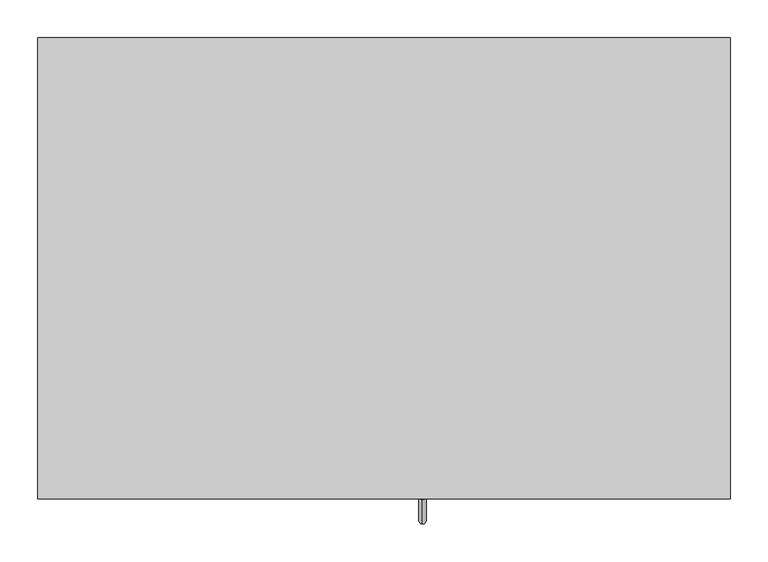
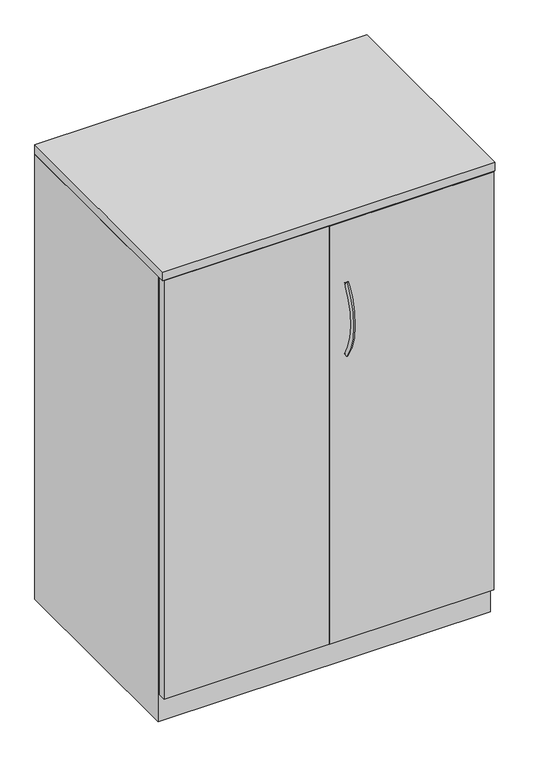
"""IFC4 building model written with IfcOpenShell, lengths in millimetres: furniture geometry, Steelcase - Universal Storage - Cabinet - Wardrobe - 52H - Proud Steel : Partition/3 Adjustable Shelf/Coat Rod - 24D x 36W."""

import ifcopenshell
import ifcopenshell.guid

model = None  # the IFC model being written
_history = None  # IfcOwnerHistory: only IFC2X3 demands one
_inside = {}  # id of a spatial element -> (the spatial element, [elements in it])
_under = {}  # id of a project, library or spatial element -> (it, [spatial elements below it])
_declared = {}  # id of a project -> (the project, [libraries it declares])
_typed = {}  # id of a type object -> (the type object, [elements of that type])
_made_of = {}  # id of a material, layer set ... -> (it, [elements and type objects made of it])


def new_model(schema):
    """Start an empty IFC model of exactly this schema.

    Asked for "IFC4X3", IfcOpenShell would pick the latest addendum, in which some entities
    have other attributes; the version numbers below select the first issue.
    IFC2X3 requires an IfcOwnerHistory on every rooted entity: one is made here for all.
    """
    global model, _history
    if schema == "IFC4X3":
        model = ifcopenshell.file(schema_version=(4, 3, 0, 0))
    else:
        model = ifcopenshell.file(schema=schema)
    _inside.clear()
    _under.clear()
    _declared.clear()
    _typed.clear()
    _made_of.clear()
    _history = None
    if model.schema == "IFC2X3":
        org = make("IfcOrganization", Name="unknown")
        user = make(
            "IfcPersonAndOrganization",
            ThePerson=make("IfcPerson", FamilyName="unknown"),
            TheOrganization=org,
        )
        app = make(
            "IfcApplication",
            ApplicationDeveloper=org,
            Version="unknown",
            ApplicationFullName="unknown",
            ApplicationIdentifier="unknown",
        )
        _history = make(
            "IfcOwnerHistory",
            OwningUser=user,
            OwningApplication=app,
            ChangeAction="ADDED",
            CreationDate=0,
        )
    return model


def make(cls, **values):
    """One entity of the class cls with the attributes given. An attribute that is None is left unset."""
    return model.create_entity(
        cls, **{name: value for name, value in values.items() if value is not None}
    )


def rooted(cls, **values):
    """An entity with a GlobalId (a new one), such as an element, a storey or a relation."""
    return make(cls, GlobalId=ifcopenshell.guid.new(), OwnerHistory=_history, **values)


def si_unit(unit_type, name, prefix=None):
    """IfcSIUnit, for example si_unit("LENGTHUNIT", "METRE", prefix="MILLI")."""
    return make("IfcSIUnit", UnitType=unit_type, Prefix=prefix, Name=name)


def assignment(units):
    """IfcUnitAssignment: the units of a project."""
    return None if units is None else make("IfcUnitAssignment", Units=units)


def point(xyz):
    """IfcCartesianPoint."""
    return None if xyz is None else make("IfcCartesianPoint", Coordinates=xyz)


def direction(xyz):
    """IfcDirection."""
    return None if xyz is None else make("IfcDirection", DirectionRatios=xyz)


def frame(location, z_axis=None, x_axis=None):
    """IfcAxis2Placement3D, a coordinate frame: its origin and axes. An axis left out is left unset."""
    return make(
        "IfcAxis2Placement3D",
        Location=point(location),
        Axis=direction(z_axis),
        RefDirection=direction(x_axis),
    )


def origin():
    """The frame at (0, 0, 0) with its axes left unset."""
    return frame((0.0, 0.0, 0.0))


def place(relative_to, where):
    """IfcLocalPlacement: puts the frame where relative to a parent placement (None: the world)."""
    return make(
        "IfcLocalPlacement", PlacementRelTo=relative_to, RelativePlacement=where
    )


def context(
    kind, dimensions, precision=None, world=None, true_north=None, identifier=None
):
    """IfcGeometricRepresentationContext, for example the 3D "Model" context."""
    return make(
        "IfcGeometricRepresentationContext",
        ContextIdentifier=identifier,
        ContextType=kind,
        CoordinateSpaceDimension=dimensions,
        Precision=precision,
        WorldCoordinateSystem=world,
        TrueNorth=true_north,
    )


def project(units=None, contexts=None):
    """IfcProject with its units and contexts."""
    return rooted(
        "IfcProject",
        Name="project",
        RepresentationContexts=contexts,
        UnitsInContext=assignment(units),
    )


def spatial(cls, under=None, at=None, **own):
    """A site, building, storey or space (cls), placed at a placement, below another one or the project."""
    s = rooted(cls, ObjectPlacement=at, **own)
    if under is not None:
        _under.setdefault(under.id(), (under, []))[1].append(s)
    return s


def polyline(points):
    """IfcPolyline through the points."""
    return make("IfcPolyline", Points=[point(p) for p in points])


def circle_curve(where, radius):
    """IfcCircle in the frame where."""
    return make("IfcCircle", Position=where, Radius=radius)


def ellipse_curve(where, semi_axis1, semi_axis2):
    """IfcEllipse in the frame where."""
    return make(
        "IfcEllipse", Position=where, SemiAxis1=semi_axis1, SemiAxis2=semi_axis2
    )


def trimmed(basis, trim1, trim2, sense, master):
    """IfcTrimmedCurve: the piece of a basis curve between two trims."""
    return make(
        "IfcTrimmedCurve",
        BasisCurve=basis,
        Trim1=trim1,
        Trim2=trim2,
        SenseAgreement=sense,
        MasterRepresentation=master,
    )


def outline(outer, holes=None, kind="AREA"):
    """IfcArbitraryClosedProfileDef: a profile drawn as a closed curve; with holes, ...WithVoids."""
    if holes is None:
        return make("IfcArbitraryClosedProfileDef", ProfileType=kind, OuterCurve=outer)
    return make(
        "IfcArbitraryProfileDefWithVoids",
        ProfileType=kind,
        OuterCurve=outer,
        InnerCurves=holes,
    )


def extrude(swept, where, along, depth):
    """IfcExtrudedAreaSolid: the profile swept, set in the frame where, extruded along a direction by depth."""
    return make(
        "IfcExtrudedAreaSolid",
        SweptArea=swept,
        Position=where,
        ExtrudedDirection=direction(along),
        Depth=depth,
    )


def faces_of(points, faces, orient=None, outer=None):
    """IfcFace entities. A face is a list of loops; a loop is a list of indices into points, from 0.

    orient and outer hold one flag for each loop. By default every Orientation is true, the
    first loop of a face is its IfcFaceOuterBound and the others are IfcFaceBound.
    """
    made = []
    for i, loops in enumerate(faces):
        bounds = []
        for j, loop in enumerate(loops):
            is_outer = j == 0 if outer is None else outer[i][j]
            bounds.append(
                make(
                    "IfcFaceOuterBound" if is_outer else "IfcFaceBound",
                    Bound=make("IfcPolyLoop", Polygon=[points[k] for k in loop]),
                    Orientation=True if orient is None else orient[i][j],
                )
            )
        made.append(make("IfcFace", Bounds=bounds))
    return made


def faceted_brep(points, faces, orient=None, outer=None, voids=None):
    """IfcFacetedBrep: a solid bounded by flat faces; with voids (closed shells), ...WithVoids."""
    shared = [point(p) for p in points]
    hull = make("IfcClosedShell", CfsFaces=faces_of(shared, faces, orient, outer))
    if voids is None:
        return make("IfcFacetedBrep", Outer=hull)
    return make(
        "IfcFacetedBrepWithVoids",
        Outer=hull,
        Voids=[
            make(cls, CfsFaces=faces_of(shared, fs, o, b)) for cls, fs, o, b in voids
        ],
    )


def shape(context_of_items, identifier, shape_type, items):
    """IfcShapeRepresentation: the items that make up one representation, for example the "Body"."""
    return make(
        "IfcShapeRepresentation",
        ContextOfItems=context_of_items,
        RepresentationIdentifier=identifier,
        RepresentationType=shape_type,
        Items=items,
    )


def source(mapping_origin, context_of_items, identifier, shape_type, items):
    """IfcRepresentationMap: a shape defined once, which mapped items show again and again."""
    return make(
        "IfcRepresentationMap",
        MappingOrigin=mapping_origin,
        MappedRepresentation=shape(context_of_items, identifier, shape_type, items),
    )


def transform(
    local_origin,
    x_axis=None,
    y_axis=None,
    z_axis=None,
    scale=None,
    scale2=None,
    scale3=None,
    uniform=True,
):
    """IfcCartesianTransformationOperator3D, or its non-uniform kind. x_axis, y_axis, z_axis: its Axis1, 2, 3."""
    if uniform:
        return make(
            "IfcCartesianTransformationOperator3D",
            Axis1=direction(x_axis),
            Axis2=direction(y_axis),
            LocalOrigin=point(local_origin),
            Scale=scale,
            Axis3=direction(z_axis),
        )
    return make(
        "IfcCartesianTransformationOperator3DnonUniform",
        Axis1=direction(x_axis),
        Axis2=direction(y_axis),
        LocalOrigin=point(local_origin),
        Scale=scale,
        Axis3=direction(z_axis),
        Scale2=scale2,
        Scale3=scale3,
    )


def mapped(mapping_source, mapping_target):
    """IfcMappedItem: shows the shape of a source again, moved by a transform."""
    return make(
        "IfcMappedItem", MappingSource=mapping_source, MappingTarget=mapping_target
    )


def made_of(thing, what):
    """Note that an element or type object is made of a material, layer set ...; save() writes the relation."""
    if what is not None:
        _made_of.setdefault(what.id(), (what, []))[1].append(thing)
    return thing


def element(
    cls,
    number,
    at=None,
    inside=None,
    cuts=None,
    type_object=None,
    material=None,
    context=None,
    identifier="Body",
    shape_type=None,
    held_by="IfcProductDefinitionShape",
    body=None,
    shapes=None,
    **own,
):
    """One element of the class cls, such as IfcWall. Its Tag is "e" and its number.

    at: its placement. inside: the storey or other place that contains it. cuts: it is an
    opening in that element (IfcRelVoidsElement). A single representation is given by context,
    identifier, shape_type and body (its items); several are given by shapes. held_by: the class
    of the entity that holds the representations. save() writes the other relations.
    """
    e = rooted(cls, Tag="e%d" % number, ObjectPlacement=at, **own)
    if body is not None:
        shapes = [shape(context, identifier, shape_type, body)]
    if shapes is not None:
        e.Representation = make(held_by, Representations=shapes)
    if inside is not None:
        _inside.setdefault(inside.id(), (inside, []))[1].append(e)
    if cuts is not None:
        rooted(
            "IfcRelVoidsElement", RelatingBuildingElement=cuts, RelatedOpeningElement=e
        )
    if type_object is not None:
        _typed.setdefault(type_object.id(), (type_object, []))[1].append(e)
    return made_of(e, material)


def aggregate(whole, parts):
    """IfcRelAggregates: a whole, such as a stair, and the parts it consists of."""
    return rooted("IfcRelAggregates", RelatingObject=whole, RelatedObjects=parts)


def save(model, path):
    """Write the relations noted so far, then the file.

    IfcRelAggregates (storeys below a building ...), IfcRelContainedInSpatialStructure (elements
    in a storey), IfcRelDefinesByType, IfcRelAssociatesMaterial and IfcRelDeclares: one each for
    every whole, place, type object, material and project.
    """
    for whole, parts in _under.values():
        aggregate(whole, parts)
    for where, things in _inside.values():
        rooted(
            "IfcRelContainedInSpatialStructure",
            RelatedElements=things,
            RelatingStructure=where,
        )
    for kind, things in _typed.values():
        rooted("IfcRelDefinesByType", RelatedObjects=things, RelatingType=kind)
    for what, things in _made_of.values():
        rooted("IfcRelAssociatesMaterial", RelatedObjects=things, RelatingMaterial=what)
    for by, libraries in _declared.values():
        rooted("IfcRelDeclares", RelatingContext=by, RelatedDefinitions=libraries)
    model.write(path)


def plane_surface(at):
    """IfcPlane: the flat surface through the origin of the frame at, square to its z axis."""
    return make("IfcPlane", Position=at)


def revolved_surface(curve, axis_point, axis_direction):
    """IfcSurfaceOfRevolution: the curve turned about the line through axis_point along axis_direction."""
    return make(
        "IfcSurfaceOfRevolution",
        SweptCurve=make("IfcArbitraryOpenProfileDef", ProfileType="CURVE", Curve=curve),
        AxisPosition=make("IfcAxis1Placement", Location=point(axis_point), Axis=direction(axis_direction)),
    )


def advanced_brep(points, edges, surfaces, faces):
    """IfcAdvancedBrep: a solid bounded by faces that lie on surfaces and meet in shared edges.

    An edge is (start, end): straight between two places in points (the first is 0);
    or (start, end, curve); or (start, end, curve, False) where it runs against its curve.
    A face is (place in surfaces, loops), or (place, loops, False) where it looks against
    its surface's normal. A loop lists edges by number (the first is 1), with a minus sign
    where the edge is run from its end to its start. The first loop is the outer one.
    """
    corners = [point(p) for p in points]
    vertices = [make("IfcVertexPoint", VertexGeometry=c) for c in corners]
    made = []
    for start, end, *more in edges:
        made.append(
            make(
                "IfcEdgeCurve",
                EdgeStart=vertices[start],
                EdgeEnd=vertices[end],
                EdgeGeometry=more[0] if more else make("IfcPolyline", Points=[corners[start], corners[end]]),
                SameSense=more[1] if len(more) > 1 else True,
            )
        )
    hull = []
    for where, loops, *sense in faces:
        bounds = []
        for j, loop in enumerate(loops):
            ring = [make("IfcOrientedEdge", EdgeElement=made[abs(k) - 1], Orientation=k > 0) for k in loop]
            bounds.append(
                make(
                    "IfcFaceOuterBound" if j == 0 else "IfcFaceBound",
                    Bound=make("IfcEdgeLoop", EdgeList=ring),
                    Orientation=True,
                )
            )
        hull.append(make("IfcAdvancedFace", Bounds=bounds, FaceSurface=surfaces[where], SameSense=sense[0] if sense else True))
    return make("IfcAdvancedBrep", Outer=make("IfcClosedShell", CfsFaces=hull))


def furniture_5d30c698(model_context):
    return source(origin(), model_context, "Body", "SolidModel", [
        extrude(outline(polyline([(914.4, 130.048), (914.4, -479.552), (0.0, -479.552), (0.0, 130.048), (914.4, 130.048)])), frame((0.0, 0.0, 1295.3999516), z_axis=(0.0, 0.0, 1.0), x_axis=(1.0, 0.0, 0.0)), (0.0, 0.0, 1.0), 25.4),
        advanced_brep(
        [(507.9682496, -480.0678374, 1114.4756859), (507.9682496, -471.5857696, 1108.8828219), (507.9682496, -477.4964738, 894.418042), (507.9682496, -469.1474089, 900.2075769)],
        [
            (0, 1, circle_curve(frame((507.9682496, -475.8268035, 1111.6792539), z_axis=(0.0, 0.5504787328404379, 0.8348491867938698), x_axis=(0.0, 0.8348491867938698, -0.5504787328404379)), 5.08)),
            (1, 0, circle_curve(frame((507.9682496, -475.8268035, 1111.6792539), z_axis=(0.0, 0.5504787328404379, 0.8348491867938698), x_axis=(0.0, 0.8348491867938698, -0.5504787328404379)), 5.08)),
            (2, 3, circle_curve(frame((507.9682496, -473.3219413, 897.3128094), z_axis=(0.0, 0.5698361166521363, -0.8217583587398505), x_axis=(0.0, 0.8217583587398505, 0.5698361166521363)), 5.08)),
            (3, 2, circle_curve(frame((507.9682496, -473.3219413, 897.3128094), z_axis=(0.0, 0.5698361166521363, -0.8217583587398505), x_axis=(0.0, 0.8217583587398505, 0.5698361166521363)), 5.08)),
            (3, 1, circle_curve(frame((507.9682496, -316.0827352, 1006.3479992), z_axis=(-1.0, 0.0, 0.0), x_axis=(0.0, -0.83484918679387, 0.5504787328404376)), 186.2648211)),
            (0, 2, circle_curve(frame((507.9682496, -316.0827352, 1006.3479992), z_axis=(1.0, 0.0, 0.0), x_axis=(0.0, -0.83484918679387, 0.5504787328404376)), 196.4248211)),
        ],
        [
            plane_surface(frame((508.7619996, -475.1785718, 1111.2518261), z_axis=(0.0, 0.5504787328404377, 0.83484918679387), x_axis=(1.0, 0.0, 0.0))),
            plane_surface(frame((508.7619996, -472.6838742, 897.7552676), z_axis=(0.0, 0.5698361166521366, -0.8217583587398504), x_axis=(1.0, 0.0, 0.0))),
            revolved_surface(trimmed(ellipse_curve(frame((507.9682496, -475.8268035, 1111.6792539), z_axis=(0.0, 0.5504787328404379, 0.8348491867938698), x_axis=(0.0, 0.8348491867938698, -0.5504787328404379)), 5.08, 5.08), [point((507.9682496, -480.0678374, 1114.4756859))], [point((507.9682496, -471.5857696, 1108.8828219))], True, "CARTESIAN"), (508.7619996, -316.0827352, 1006.3479992), (1.0, 0.0, 0.0)),
            revolved_surface(trimmed(ellipse_curve(frame((507.9682496, -475.8268035, 1111.6792539), z_axis=(0.0, 0.5504787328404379, 0.8348491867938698), x_axis=(0.0, 0.8348491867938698, -0.5504787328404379)), 5.08, 5.08), [point((507.9682496, -471.5857696, 1108.8828219))], [point((507.9682496, -480.0678374, 1114.4756859))], True, "CARTESIAN"), (508.7619996, -316.0827352, 1006.3479992), (1.0, 0.0, 0.0)),
        ],
        [
            (0, [[1, 2]]),
            (1, [[3, 4]]),
            (2, [[5, -1, 6, -4]]),
            (3, [[-6, -2, -5, -3]]),
        ],
    ),
        extrude(outline(polyline([(457.2, -479.552), (3.1725353, -479.552), (3.1725353, -457.3261219), (457.2, -457.3261219), (457.2, -479.552)])), frame((0.0, 0.0, 77.724), z_axis=(0.0, 0.0, 1.0), x_axis=(1.0, 0.0, 0.0)), (0.0, 0.0, 1.0), 1216.152),
        extrude(outline(polyline([(911.2225413, -479.552), (458.7239992, -479.552), (458.7239992, -457.3261219), (911.2225413, -457.3261219), (911.2225413, -479.552)])), frame((0.0, 0.0, 77.724), z_axis=(0.0, 0.0, 1.0), x_axis=(1.0, 0.0, 0.0)), (0.0, 0.0, 1.0), 1216.152),
        faceted_brep([(25.4000008, -457.3261219, 76.2), (889.0000242, -457.3261219, 76.2), (889.0000242, 104.6479992, 76.2), (25.4000008, 104.6479992, 76.2), (914.4, 130.048, 0.0), (914.4, -457.3261219, 0.0), (0.0, -457.3261219, 0.0), (0.0, 130.048, 0.0), (0.0, 130.048, 1293.876), (914.4, 130.048, 1293.876), (0.0, -457.3261219, 1293.876), (914.4, -457.3261219, 1293.876), (889.0000242, -457.3261219, 1293.876), (25.4000008, -457.3261219, 1293.876), (889.0000242, 104.6479992, 1293.876), (25.4000008, 104.6479992, 1293.876)], [[[0, 1, 2, 3]], [[4, 5, 6, 7]], [[4, 7, 8, 9]], [[8, 7, 6, 10]], [[10, 6, 5, 11, 12, 1, 0, 13]], [[11, 5, 4, 9]], [[14, 12, 11, 9, 8, 10, 13, 15]], [[12, 14, 2, 1]], [[15, 13, 0, 3]], [[14, 15, 3, 2]]]),
    ])


if __name__ == "__main__":
    model = new_model("IFC4")
    model_context = context("Model", 3, world=origin())
    ifc_project = project(units=[si_unit("LENGTHUNIT", "METRE", prefix="MILLI")], contexts=[model_context])
    site = spatial("IfcSite", under=ifc_project)
    building = spatial("IfcBuilding", under=site)
    placement = place(None, origin())
    furniture_shape = furniture_5d30c698(model_context)
    element("IfcFurniture", 1, ObjectType="Steelcase - Universal Storage - Cabinet - Wardrobe - 52H - Proud Steel : Partition/3 Adjustable Shelf/Coat Rod - 24D x 36W", at=placement, inside=building, context=model_context, shape_type="MappedRepresentation", body=[
        mapped(furniture_shape, transform((0.0, 0.0, 0.0), x_axis=(1.0, 0.0, 0.0), y_axis=(0.0, 1.0, 0.0), z_axis=(0.0, 0.0, 1.0))),
    ])
    save(model, "model.ifc")
